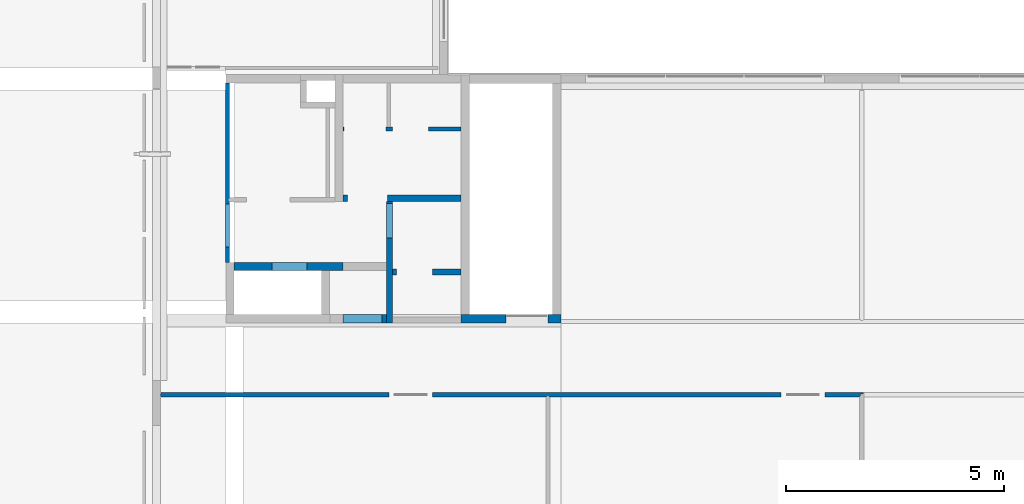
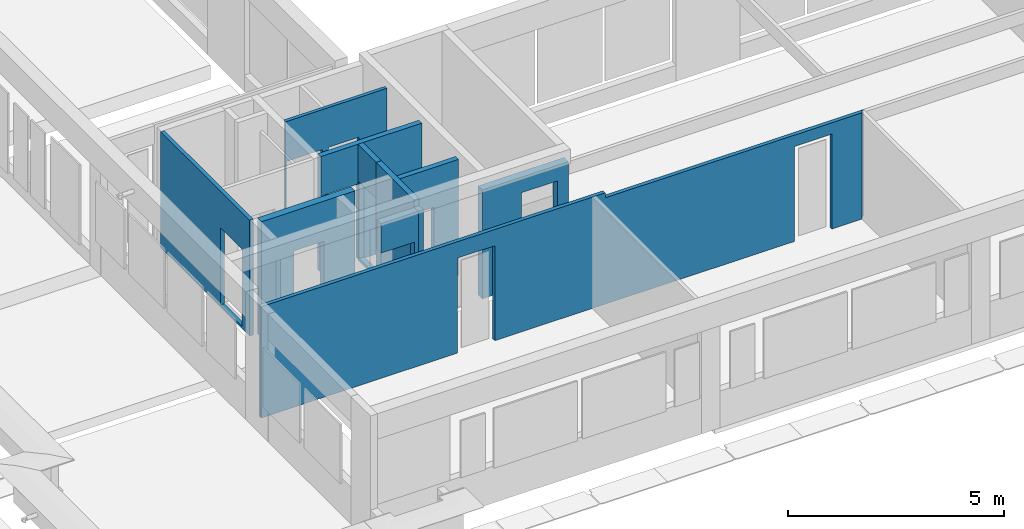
# One storey, part 20 of 38: 10 walls.
"""IFC4X3_ADD2 building model written with IfcOpenShell, lengths in millimetres."""

from ifc_helpers import new_model, si_unit, direction, frame, origin_with_axes, place, context, subcontext, project, spatial, faceted_brep, polygons, source, transform, mapped, type_object, type_shapes, element, save


model = new_model("IFC4X3_ADD2")

# Units and contexts
model_context = context("Model", 3, precision=1e-05, world=origin_with_axes(), true_north=direction((0.0, 1.0)))
body_context = subcontext(model_context, "Body", "Model", "MODEL_VIEW")
ifc_project = project(units=[si_unit("LENGTHUNIT", "METRE", prefix="MILLI"), si_unit("AREAUNIT", "SQUARE_METRE"), si_unit("VOLUMEUNIT", "CUBIC_METRE"), si_unit("PLANEANGLEUNIT", "RADIAN"), si_unit("TIMEUNIT", "SECOND"), si_unit("MASSUNIT", "GRAM")], contexts=[model_context])

# Site, building, storey
site_placement = place(None, origin_with_axes())
site = spatial("IfcSite", under=ifc_project, at=site_placement, Name="Site", CompositionType="ELEMENT")
building_placement = place(site_placement, origin_with_axes())
building = spatial("IfcBuilding", under=site, at=building_placement, Name="IFC Building Story")
storey_placement = place(building_placement, frame((0.0, 0.0, 10800.0), z_axis=(0.0, 0.0, 1.0), x_axis=(1.0, 0.0, 0.0)))
storey = spatial("IfcBuildingStorey", under=building, at=storey_placement, Name="030", Elevation=10800.0)

# Walls
wall_type_1 = type_object("IfcWallType", Name="Basic Wall_BB_10.01.41#02_Gipskartonwand_Vochtbestendig_MS100 _ 25.50.25_ 100 mm1", PredefinedType="NOTDEFINED")
shared_shape_1 = source(origin_with_axes(), body_context, "Body", "Brep", [
    faceted_brep([(0.0, 37.5000000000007, 0.0), (0.0, 37.5000000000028, 3270.0), (0.0, 50.0, 3270.0), (0.0, 50.0, 0.0), (4120.00406588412, 37.5000000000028, 3270.0), (4120.00406588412, 50.0, 3270.0), (4120.00406588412, 37.5000000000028, 0.0), (4120.00406588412, 50.0, 0.0), (350.0, 37.5000000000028, 2240.000000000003), (350.0, 37.5000000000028, 70.0), (350.0, 50.0, 70.0), (350.0, 50.0, 2240.000000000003), (1339.999999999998, 37.5000000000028, 70.0), (1339.999999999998, 50.0, 70.0), (1339.999999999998, 37.5000000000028, 2240.000000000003), (1339.999999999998, 50.0, 2240.000000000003)], [[[0, 1, 2, 3]], [[1, 4, 5, 2]], [[4, 6, 7, 5]], [[6, 0, 3, 7]], [[8, 9, 10, 11]], [[9, 12, 13, 10]], [[12, 14, 15, 13]], [[14, 8, 11, 15]], [[9, 8, 14, 12], [1, 0, 6, 4]], [[15, 11, 10, 13], [7, 3, 2, 5]]], outer=[[True], [True], [True], [True], [True], [True], [True], [True], [False, True], [False, True]]),
    faceted_brep([(0.0, 24.9999999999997, 0.0), (0.0, 25.0000000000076, 3270.0), (0.0, 37.5000000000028, 3270.0), (0.0, 37.5000000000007, 0.0), (4120.00406588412, 25.0000000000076, 3270.0), (4120.00406588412, 37.5000000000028, 3270.0), (4120.00406588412, 25.0000000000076, 0.0), (4120.00406588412, 37.5000000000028, 0.0), (350.0, 25.0000000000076, 2240.000000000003), (350.0, 25.0000000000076, 70.0), (350.0, 37.5000000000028, 70.0), (350.0, 37.5000000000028, 2240.000000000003), (1339.999999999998, 25.0000000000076, 70.0), (1339.999999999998, 37.5000000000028, 70.0), (1339.999999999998, 25.0000000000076, 2240.000000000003), (1339.999999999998, 37.5000000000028, 2240.000000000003)], [[[0, 1, 2, 3]], [[1, 4, 5, 2]], [[4, 6, 7, 5]], [[6, 0, 3, 7]], [[8, 9, 10, 11]], [[9, 12, 13, 10]], [[12, 14, 15, 13]], [[14, 8, 11, 15]], [[9, 8, 14, 12], [1, 0, 6, 4]], [[15, 11, 10, 13], [7, 3, 2, 5]]], outer=[[True], [True], [True], [True], [True], [True], [True], [True], [False, True], [False, True]]),
    faceted_brep([(0.0, -24.9999999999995, 0.0), (0.0, -25.000000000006, 3270.0), (0.0, 25.0000000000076, 3270.0), (0.0, 24.9999999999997, 0.0), (4120.00406588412, -25.000000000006, 3270.0), (4120.00406588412, 25.0000000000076, 3270.0), (4120.00406588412, -25.000000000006, 0.0), (4120.00406588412, 25.0000000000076, 0.0), (350.0, -25.000000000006, 2240.000000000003), (350.0, -25.000000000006, 70.0), (350.0, 25.0000000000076, 70.0), (350.0, 25.0000000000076, 2240.000000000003), (1339.999999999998, -25.000000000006, 70.0), (1339.999999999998, 25.0000000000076, 70.0), (1339.999999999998, -25.000000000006, 2240.000000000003), (1339.999999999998, 25.0000000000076, 2240.000000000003)], [[[0, 1, 2, 3]], [[1, 4, 5, 2]], [[4, 6, 7, 5]], [[6, 0, 3, 7]], [[8, 9, 10, 11]], [[9, 12, 13, 10]], [[12, 14, 15, 13]], [[14, 8, 11, 15]], [[9, 8, 14, 12], [1, 0, 6, 4]], [[15, 11, 10, 13], [7, 3, 2, 5]]], outer=[[True], [True], [True], [True], [True], [True], [True], [True], [False, True], [False, True]]),
    faceted_brep([(0.0, -37.5000000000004, 0.0), (0.0, -37.4999999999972, 3270.0), (0.0, -25.000000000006, 3270.0), (0.0, -24.9999999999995, 0.0), (4120.00406588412, -37.4999999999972, 3270.0), (4120.00406588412, -25.000000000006, 3270.0), (4120.00406588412, -37.4999999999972, 0.0), (4120.00406588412, -25.000000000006, 0.0), (350.0, -37.4999999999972, 2240.000000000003), (350.0, -37.4999999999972, 70.0), (350.0, -25.000000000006, 70.0), (350.0, -25.000000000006, 2240.000000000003), (1339.999999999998, -37.4999999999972, 70.0), (1339.999999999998, -25.000000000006, 70.0), (1339.999999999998, -37.4999999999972, 2240.000000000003), (1339.999999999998, -25.000000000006, 2240.000000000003)], [[[0, 1, 2, 3]], [[1, 4, 5, 2]], [[4, 6, 7, 5]], [[6, 0, 3, 7]], [[8, 9, 10, 11]], [[9, 12, 13, 10]], [[12, 14, 15, 13]], [[14, 8, 11, 15]], [[9, 8, 14, 12], [1, 0, 6, 4]], [[15, 11, 10, 13], [7, 3, 2, 5]]], outer=[[True], [True], [True], [True], [True], [True], [True], [True], [False, True], [False, True]]),
    faceted_brep([(0.0, -50.0, 0.0), (0.0, -50.0000000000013, 3270.0), (0.0, -37.4999999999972, 3270.0), (0.0, -37.5000000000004, 0.0), (4120.00406588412, -50.0000000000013, 3270.0), (4120.00406588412, -37.4999999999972, 3270.0), (4120.00406588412, -50.0000000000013, 0.0), (4120.00406588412, -37.4999999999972, 0.0), (350.0, -50.0000000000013, 2240.000000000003), (350.0, -50.0000000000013, 70.0), (350.0, -37.4999999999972, 70.0), (350.0, -37.4999999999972, 2240.000000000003), (1339.999999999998, -50.0000000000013, 70.0), (1339.999999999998, -37.4999999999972, 70.0), (1339.999999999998, -50.0000000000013, 2240.000000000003), (1339.999999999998, -37.4999999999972, 2240.000000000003)], [[[0, 1, 2, 3]], [[1, 4, 5, 2]], [[4, 6, 7, 5]], [[6, 0, 3, 7]], [[8, 9, 10, 11]], [[9, 12, 13, 10]], [[12, 14, 15, 13]], [[14, 8, 11, 15]], [[9, 8, 14, 12], [1, 0, 6, 4]], [[15, 11, 10, 13], [7, 3, 2, 5]]], outer=[[True], [True], [True], [True], [True], [True], [True], [True], [False, True], [False, True]]),
])
type_shapes(wall_type_1, [shared_shape_1])
wall_1_placement = place(storey_placement, frame((-43655.0, 8390.0, -80.0), z_axis=(0.0, 0.0, 1.0), x_axis=(0.0, 1.0, 0.0)))
element("IfcWall", 1, at=wall_1_placement, inside=storey, type_object=wall_type_1, Name="Basic Wall:BB_10.01.41#02_Gipskartonwand_Vochtbestendig_MS100 / 25.50.25, 100 mm", ObjectType="Basic Wall:BB_10.01.41#02_Gipskartonwand_Vochtbestendig_MS100 / 25.50.25, 100 mm", PredefinedType="PARTITIONING", context=body_context, shape_type="MappedRepresentation", body=[
    mapped(shared_shape_1, transform((0.0, 0.0, 0.0))),
])
wall_type_2 = type_object("IfcWallType", Name="Basic Wall_BB_10.01.41#03_Gipskartonwand_43dB_MS100 _ 25.50.25_ 100 mm79", PredefinedType="NOTDEFINED")
shared_shape_2 = source(origin_with_axes(), body_context, "Body", "Tessellation", [
    polygons([(9164.99999999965, 37.5000000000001, 3000.0), (16102.4999999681, 37.5000000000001, 3000.0), (16102.4999999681, 49.9999999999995, 3000.0), (9164.99999999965, 49.9999999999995, 3000.0), (15215.0000000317, 37.5000000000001, 0.0), (15215.0000000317, 50.0, 0.0), (16102.4999999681, 49.9999999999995, 0.0), (16102.4999999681, 37.5000000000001, 0.0), (15215.0000000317, 37.5000000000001, 2680.0), (15215.0000000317, 50.0, 2680.0), (14215.0000000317, 49.9999999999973, 2680.0), (14215.0000000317, 37.5000000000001, 2680.0), (14215.0000000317, 37.5000000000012, 0.0), (14215.0000000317, 50.0, 0.0), (6215.0000000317, 37.5000000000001, 0.0), (6215.0000000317, 49.9999999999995, 0.0), (6215.0000000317, 37.5000000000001, 2680.0), (6215.0000000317, 49.9999999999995, 2680.0), (5215.0000000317, 49.9999999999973, 2680.0), (5215.0000000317, 37.5000000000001, 2680.0), (5215.0000000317, 37.5000000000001, 0.0), (5215.0000000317, 49.9999999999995, 0.0), (-14.9999999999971, 49.9999999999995, 0.0), (-14.9999999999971, 37.5000000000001, 0.0), (9164.99999999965, 37.5000000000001, 3140.0), (-14.9999999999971, 37.5000000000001, 3140.0), (-14.9999999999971, 37.5000000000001, 3000.0), (-14.9999999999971, 49.9999999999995, 3000.0), (-14.9999999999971, 49.9999999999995, 3140.0), (9164.99999999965, 49.9999999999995, 3140.0)], [[[1, 2, 3, 4]], [[5, 6, 7, 8]], [[9, 10, 6, 5]], [[11, 10, 9, 12]], [[11, 12, 13, 14]], [[15, 16, 14, 13]], [[17, 18, 16, 15]], [[19, 18, 17, 20]], [[21, 22, 19, 20]], [[23, 22, 21, 24]], [[9, 5, 8]], [[9, 8, 2]], [[2, 12, 9]], [[1, 25, 17]], [[12, 2, 1]], [[1, 17, 15]], [[1, 15, 13]], [[1, 13, 12]], [[25, 20, 17]], [[27, 24, 21]], [[27, 21, 20]], [[20, 25, 26]], [[20, 26, 27]], [[28, 29, 30]], [[28, 30, 4]], [[11, 14, 16]], [[11, 16, 4]], [[4, 3, 11]], [[3, 10, 11]], [[3, 7, 6]], [[3, 6, 10]], [[19, 22, 23]], [[19, 23, 28]], [[28, 4, 19]], [[4, 18, 19]], [[4, 16, 18]], [[28, 23, 24]], [[28, 24, 27]], [[27, 26, 29]], [[27, 29, 28]], [[7, 3, 2, 8]], [[30, 29, 26, 25]], [[4, 30, 25, 1]]]),
    polygons([(16089.9999999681, 37.5000000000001, 3000.0), (9164.99999999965, 37.5000000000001, 3000.0), (9164.99999999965, 24.9999999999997, 3000.0), (16089.9999999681, 24.9999999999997, 3000.0), (15215.0000000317, 24.9999999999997, 0.0), (15215.0000000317, 37.5000000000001, 0.0), (16089.9999999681, 37.5000000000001, 0.0), (16089.9999999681, 24.9999999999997, 0.0), (15215.0000000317, 24.9999999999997, 2680.0), (15215.0000000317, 37.5000000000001, 2680.0), (14215.0000000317, 25.0, 2680.0), (14215.0000000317, 37.5000000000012, 2680.0), (14215.0000000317, 25.0, 0.0), (14215.0000000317, 37.5000000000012, 0.0), (6215.0000000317, 24.9999999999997, 0.0), (6215.0000000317, 37.5000000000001, 0.0), (6215.0000000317, 24.9999999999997, 2680.0), (6215.0000000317, 37.5000000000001, 2680.0), (5215.0000000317, 24.9999999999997, 2680.0), (5215.0000000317, 37.5000000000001, 2680.0), (5215.0000000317, 24.9999999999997, 0.0), (5215.0000000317, 37.5000000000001, 0.0), (-14.9999999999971, 37.5000000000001, 0.0), (-14.999999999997, 24.9999999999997, 0.0), (-14.9999999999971, 37.5000000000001, 3000.0), (-14.9999999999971, 37.5000000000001, 3140.0), (9164.99999999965, 37.5000000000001, 3140.0), (9164.99999999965, 24.9999999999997, 3140.0), (-14.999999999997, 24.9999999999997, 3140.0), (-14.999999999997, 24.9999999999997, 3000.0)], [[[1, 2, 3, 4]], [[5, 6, 7, 8]], [[9, 10, 6, 5]], [[10, 9, 11, 12]], [[12, 11, 13, 14]], [[15, 16, 14, 13]], [[17, 18, 16, 15]], [[18, 17, 19, 20]], [[21, 22, 20, 19]], [[23, 22, 21, 24]], [[25, 26, 27]], [[25, 27, 2]], [[12, 14, 16]], [[12, 16, 2]], [[2, 1, 12]], [[1, 10, 12]], [[1, 7, 6]], [[1, 6, 10]], [[20, 22, 23]], [[20, 23, 25]], [[25, 2, 20]], [[2, 18, 20]], [[2, 16, 18]], [[9, 5, 8]], [[9, 8, 4]], [[4, 11, 9]], [[3, 28, 17]], [[11, 4, 3]], [[3, 17, 15]], [[3, 15, 13]], [[3, 13, 11]], [[28, 19, 17]], [[30, 24, 21]], [[30, 21, 19]], [[19, 28, 29]], [[19, 29, 30]], [[25, 23, 24]], [[25, 24, 30]], [[30, 29, 26]], [[30, 26, 25]], [[4, 8, 7, 1]], [[27, 26, 29, 28]], [[2, 27, 28, 3]]]),
    polygons([(16039.9999999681, 24.9999999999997, 3000.0), (9164.99999999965, 24.9999999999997, 3000.0), (9164.99999999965, -24.9999999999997, 3000.0), (16039.9999999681, -24.9999999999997, 3000.0), (15215.0000000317, -24.9999999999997, 0.0), (15215.0000000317, 24.9999999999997, 0.0), (16039.9999999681, 24.9999999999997, 0.0), (16039.9999999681, -24.9999999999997, 0.0), (15215.0000000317, -24.9999999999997, 2680.0), (15215.0000000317, 24.9999999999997, 2680.0), (14215.0000000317, -24.9999999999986, 2680.0), (14215.0000000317, 25.0, 2680.0), (14215.0000000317, -24.9999999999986, 0.0), (14215.0000000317, 25.0, 0.0), (6215.0000000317, -24.9999999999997, 0.0), (6215.0000000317, 24.9999999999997, 0.0), (6215.0000000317, -24.9999999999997, 2680.0), (6215.0000000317, 24.9999999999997, 2680.0), (5215.0000000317, -24.9999999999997, 2680.0), (5215.0000000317, 24.9999999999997, 2680.0), (5215.0000000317, -24.9999999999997, 0.0), (5215.0000000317, 24.9999999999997, 0.0), (-25.0000000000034, 24.9999999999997, 0.0), (-25.0000000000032, -24.9999999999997, 0.0), (-25.0000000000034, 24.9999999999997, 3000.0), (-25.0000000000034, 24.9999999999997, 3140.0), (9164.99999999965, 24.9999999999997, 3140.0), (9164.99999999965, -24.9999999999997, 3140.0), (-25.0000000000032, -24.9999999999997, 3140.0), (-25.0000000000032, -24.9999999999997, 3000.0)], [[[1, 2, 3, 4]], [[5, 6, 7, 8]], [[9, 10, 6, 5]], [[10, 9, 11, 12]], [[12, 11, 13, 14]], [[15, 16, 14, 13]], [[17, 18, 16, 15]], [[18, 17, 19, 20]], [[21, 22, 20, 19]], [[23, 22, 21, 24]], [[25, 26, 27]], [[25, 27, 2]], [[12, 14, 16]], [[12, 16, 2]], [[2, 1, 12]], [[1, 10, 12]], [[1, 7, 6]], [[1, 6, 10]], [[20, 22, 23]], [[20, 23, 25]], [[25, 2, 20]], [[2, 18, 20]], [[2, 16, 18]], [[9, 5, 8]], [[9, 8, 4]], [[4, 11, 9]], [[3, 28, 17]], [[11, 4, 3]], [[3, 17, 15]], [[3, 15, 13]], [[3, 13, 11]], [[28, 19, 17]], [[30, 24, 21]], [[30, 21, 19]], [[19, 28, 29]], [[19, 29, 30]], [[25, 23, 24]], [[25, 24, 30]], [[30, 29, 26]], [[30, 26, 25]], [[4, 8, 7, 1]], [[27, 26, 29, 28]], [[2, 27, 28, 3]]]),
    polygons([(16027.4999999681, -24.9999999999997, 3000.0), (9164.99999999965, -24.9999999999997, 3000.0), (9164.99999999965, -37.5000000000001, 3000.0), (16027.4999999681, -37.5000000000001, 3000.0), (15215.0000000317, -37.5000000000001, 0.0), (15215.0000000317, -24.9999999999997, 0.0), (16027.4999999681, -24.9999999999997, 0.0), (16027.4999999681, -37.5000000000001, 0.0), (15215.0000000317, -37.5000000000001, 2680.0), (15215.0000000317, -24.9999999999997, 2680.0), (14215.0000000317, -37.4999999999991, 2680.0), (14215.0000000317, -24.9999999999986, 2680.0), (14215.0000000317, -37.4999999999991, 0.0), (14215.0000000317, -24.9999999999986, 0.0), (6215.0000000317, -37.5000000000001, 0.0), (6215.0000000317, -24.9999999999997, 0.0), (6215.0000000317, -37.5000000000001, 2680.0), (6215.0000000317, -24.9999999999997, 2680.0), (5215.0000000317, -37.5000000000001, 2680.0), (5215.0000000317, -24.9999999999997, 2680.0), (5215.0000000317, -37.5000000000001, 0.0), (5215.0000000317, -24.9999999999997, 0.0), (-14.9999999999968, -24.9999999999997, 0.0), (-14.9999999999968, -37.5000000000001, 0.0), (-14.9999999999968, -24.9999999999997, 3000.0), (-14.9999999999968, -24.9999999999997, 3140.0), (9164.99999999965, -24.9999999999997, 3140.0), (9164.99999999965, -37.5000000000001, 3140.0), (-14.9999999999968, -37.5000000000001, 3140.0), (-14.9999999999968, -37.5000000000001, 3000.0)], [[[1, 2, 3, 4]], [[5, 6, 7, 8]], [[9, 10, 6, 5]], [[10, 9, 11, 12]], [[12, 11, 13, 14]], [[15, 16, 14, 13]], [[17, 18, 16, 15]], [[18, 17, 19, 20]], [[21, 22, 20, 19]], [[23, 22, 21, 24]], [[25, 26, 27]], [[25, 27, 2]], [[12, 14, 16]], [[12, 16, 2]], [[2, 1, 12]], [[1, 10, 12]], [[1, 7, 6]], [[1, 6, 10]], [[20, 22, 23]], [[20, 23, 25]], [[25, 2, 20]], [[2, 18, 20]], [[2, 16, 18]], [[9, 5, 8]], [[9, 8, 4]], [[4, 11, 9]], [[3, 28, 17]], [[11, 4, 3]], [[3, 17, 15]], [[3, 15, 13]], [[3, 13, 11]], [[28, 19, 17]], [[30, 24, 21]], [[30, 21, 19]], [[19, 28, 29]], [[19, 29, 30]], [[25, 23, 24]], [[25, 24, 30]], [[30, 29, 26]], [[30, 26, 25]], [[4, 8, 7, 1]], [[27, 26, 29, 28]], [[2, 27, 28, 3]]]),
    polygons([(16014.9999999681, -37.5000000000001, 3000.0), (9164.99999999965, -37.5000000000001, 3000.0), (9164.99999999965, -50.0, 3000.0), (16014.9999999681, -50.0, 3000.0), (16014.9999999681, -37.5000000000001, 0.0), (15215.0000000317, -37.5000000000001, 0.0), (15215.0000000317, -37.5000000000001, 2680.0), (14215.0000000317, -37.4999999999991, 2680.0), (14215.0000000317, -37.4999999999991, 0.0), (6215.0000000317, -37.5000000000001, 0.0), (6215.0000000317, -37.5000000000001, 2680.0), (5215.0000000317, -37.5000000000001, 2680.0), (5215.0000000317, -37.5000000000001, 0.0), (-14.9999999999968, -37.5000000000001, 0.0), (-14.9999999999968, -37.5000000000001, 3000.0), (-14.9999999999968, -37.5000000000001, 3140.0), (9164.99999999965, -37.5000000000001, 3140.0), (16014.9999999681, -50.0, 0.0), (15215.0000000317, -49.9999999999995, 0.0), (15215.0000000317, -49.9999999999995, 2680.0), (14215.0000000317, -50.0000000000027, 2680.0), (14215.0000000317, -49.9999999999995, 0.0), (8914.99999996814, -50.0, 0.0), (8814.99999996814, -50.0, 0.0), (6215.0000000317, -50.0, 0.0), (6215.0000000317, -50.0, 2680.0), (5215.0000000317, -50.0000000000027, 2680.0), (5215.0000000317, -50.0, 0.0), (-14.9999999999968, -50.0, 0.0), (9164.99999999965, -50.0, 3140.0), (8914.99999996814, -50.0, 3140.0), (8814.99999996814, -50.0, 3140.0), (-14.9999999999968, -50.0, 3140.0), (-14.9999999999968, -50.0, 3000.0)], [[[1, 2, 3, 4]], [[15, 16, 12]], [[12, 13, 14]], [[12, 14, 15]], [[16, 17, 12]], [[17, 11, 12]], [[2, 8, 9]], [[2, 9, 10]], [[2, 10, 11]], [[11, 17, 2]], [[2, 1, 8]], [[1, 7, 8]], [[1, 5, 6]], [[1, 6, 7]], [[5, 1, 4, 18]], [[6, 5, 18, 19]], [[7, 6, 19, 20]], [[8, 7, 20, 21]], [[9, 8, 21, 22]], [[24, 25, 10]], [[10, 23, 24]], [[23, 10, 9]], [[9, 22, 23]], [[11, 10, 25, 26]], [[12, 11, 26, 27]], [[13, 12, 27, 28]], [[14, 13, 28, 29]], [[20, 19, 18]], [[20, 18, 4]], [[4, 21, 20]], [[3, 30, 31]], [[21, 4, 3]], [[3, 31, 23]], [[23, 22, 21]], [[23, 21, 3]], [[31, 32, 24]], [[31, 24, 23]], [[32, 26, 25]], [[32, 25, 24]], [[32, 27, 26]], [[34, 29, 28]], [[34, 28, 27]], [[27, 32, 33]], [[27, 33, 34]], [[34, 33, 16]], [[34, 16, 15]], [[15, 14, 29]], [[15, 29, 34]], [[31, 30, 17]], [[17, 32, 31]], [[32, 17, 16]], [[16, 33, 32]], [[2, 17, 30, 3]]]),
])
type_shapes(wall_type_2, [shared_shape_2])
wall_2_placement = place(storey_placement, frame((-45165.0, 5350.0, 0.0), z_axis=(0.0, 0.0, 1.0), x_axis=(1.0, 0.0, 0.0)))
element("IfcWall", 2, at=wall_2_placement, inside=storey, type_object=wall_type_2, Name="Basic Wall:BB_10.01.41#03_Gipskartonwand_43dB_MS100 / 25.50.25, 100 mm", ObjectType="Basic Wall:BB_10.01.41#03_Gipskartonwand_43dB_MS100 / 25.50.25, 100 mm", PredefinedType="PARTITIONING", context=body_context, shape_type="MappedRepresentation", body=[
    mapped(shared_shape_2, transform((0.0, 0.0, 0.0))),
])
wall_3_placement = place(storey_placement, frame((0.0, 0.0, -10800.0), z_axis=(0.0, 0.0, 1.0), x_axis=(1.0, 0.0, 0.0)))
element("IfcWall", 3, at=wall_3_placement, inside=storey, Name="Basic Wall:BB_XX_Wand uit beton, 200 mm", ObjectType="Basic Wall:BB_XX_Wand uit beton, 200 mm", PredefinedType="SOLIDWALL", context=body_context, shape_type="Tessellation", body=[
    polygons([(-36000.0, 7200.0, 10720.0), (-36200.00000000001, 7200.0, 10720.0), (-36300.0, 7200.000000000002, 10720.0), (-36300.0, 7200.000000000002, 13350.0), (-37260.0, 7200.000000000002, 13350.0), (-37260.0, 7200.000000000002, 10720.0), (-38100.00000000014, 7200.0, 10720.0), (-38300.00000000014, 7200.0, 10720.0), (-38300.00000000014, 7200.0, 13790.0), (-36000.0, 7200.0, 13790.0), (-36300.0, 7000.000000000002, 10720.0), (-36000.0, 7000.000000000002, 10720.0), (-36000.0, 7000.000000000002, 13790.0), (-38300.00000000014, 7000.000000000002, 13790.0), (-38300.00000000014, 7000.000000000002, 10720.0), (-37260.0, 7000.0, 10720.0), (-37260.0, 7000.0, 13350.0), (-36300.0, 7000.000000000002, 13350.0)], [[[7, 8, 9]], [[7, 9, 5]], [[5, 6, 7]], [[9, 10, 4]], [[9, 4, 5]], [[10, 2, 3]], [[10, 3, 4]], [[10, 1, 2]], [[18, 11, 12]], [[18, 12, 13]], [[13, 14, 17]], [[13, 17, 18]], [[14, 15, 16]], [[14, 16, 17]], [[10, 9, 14, 13]], [[8, 15, 14, 9]], [[2, 1, 12]], [[2, 12, 11]], [[11, 3, 2]], [[4, 3, 11, 18]], [[5, 4, 18, 17]], [[6, 5, 17, 16]], [[7, 6, 16]], [[7, 16, 15]], [[15, 8, 7]], [[12, 1, 10, 13]]]),
])
wall_4_placement = place(storey_placement, frame((0.0, 0.0, -10800.0), z_axis=(0.0, 0.0, 1.0), x_axis=(1.0, 0.0, 0.0)))
element("IfcWall", 4, at=wall_4_placement, inside=storey, Name="Basic Wall:BB_XX_Wand uit metselwerk, 190 mm", ObjectType="Basic Wall:BB_XX_Wand uit metselwerk, 190 mm", PredefinedType="SOLIDWALL", context=body_context, shape_type="Tessellation", body=[
    polygons([(-43500.0, 8200.0, 10720.0), (-41000.0, 8199.999999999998, 10720.0), (-41000.0, 8199.999999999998, 13990.0), (-43500.0, 8200.0, 13990.0), (-41826.99999999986, 8200.000000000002, 12860.0), (-41826.99999999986, 8200.000000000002, 10800.0), (-42632.99999999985, 8200.000000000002, 10800.0), (-42632.99999999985, 8200.000000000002, 12860.0), (-41000.0, 8389.999999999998, 10720.0), (-41190.0, 8390.000000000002, 10720.0), (-43500.0, 8390.0, 10720.0), (-43500.0, 8390.0, 13990.0), (-41190.0, 8390.000000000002, 13990.0), (-41000.0, 8389.999999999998, 13990.0), (-41826.99999999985, 8390.000000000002, 10800.0), (-41826.99999999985, 8390.000000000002, 12860.0), (-42632.99999999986, 8390.000000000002, 12860.0), (-42632.99999999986, 8390.000000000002, 10800.0)], [[[8, 5, 3]], [[8, 3, 4]], [[4, 1, 7]], [[4, 7, 8]], [[1, 6, 7]], [[1, 2, 6]], [[2, 3, 5]], [[2, 5, 6]], [[13, 14, 9]], [[13, 9, 10]], [[13, 10, 15]], [[13, 15, 16]], [[18, 15, 10]], [[10, 11, 18]], [[11, 12, 17]], [[11, 17, 18]], [[12, 13, 16]], [[12, 16, 17]], [[10, 9, 2]], [[2, 1, 11]], [[2, 11, 10]], [[3, 2, 9, 14]], [[13, 12, 4]], [[13, 4, 3]], [[3, 14, 13]], [[1, 4, 12, 11]], [[5, 16, 15, 6]], [[6, 15, 18, 7]], [[7, 18, 17, 8]], [[16, 5, 8, 17]]]),
])
wall_5_placement = place(storey_placement, frame((0.0, 0.0, -10800.0), z_axis=(0.0, 0.0, 1.0), x_axis=(1.0, 0.0, 0.0)))
element("IfcWall", 5, at=wall_5_placement, inside=storey, Name="Basic Wall:BB_XX_Wand uit metselwerk, 90 mm", ObjectType="Basic Wall:BB_XX_Wand uit metselwerk, 90 mm", PredefinedType="SOLIDWALL", context=body_context, shape_type="Tessellation", body=[
    polygons([(-40999.99999999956, 11500.004065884, 10720.0), (-40999.99999999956, 11500.004065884, 13990.0), (-38300.0, 11500.004065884, 13990.0), (-38300.0, 11500.004065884, 10720.0), (-39044.99999999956, 11500.004065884, 10720.0), (-39044.99999999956, 11500.004065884, 12870.0), (-39864.99999999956, 11500.004065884, 12870.0), (-39864.99999999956, 11500.004065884, 10720.0), (-40022.99999999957, 11500.004065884, 10720.0), (-40022.99999999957, 11500.004065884, 12860.0), (-40984.99999999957, 11500.004065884, 12860.0), (-40984.99999999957, 11500.004065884, 10720.0), (-40999.99999999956, 11410.004065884, 13990.0), (-40999.99999999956, 11410.004065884, 10720.0), (-40984.99999999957, 11410.004065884, 10720.0), (-40984.99999999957, 11410.004065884, 12860.0), (-40022.99999999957, 11410.004065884, 12860.0), (-40022.99999999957, 11410.004065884, 10720.0), (-39864.99999999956, 11410.004065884, 10720.0), (-39864.99999999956, 11410.004065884, 12870.0), (-39044.99999999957, 11410.004065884, 12870.0), (-39044.99999999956, 11410.004065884, 10720.0), (-38300.0, 11410.004065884, 10720.0), (-38300.0, 11410.004065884, 13990.0)], [[[11, 12, 1]], [[1, 2, 11]], [[2, 10, 11]], [[2, 7, 10]], [[7, 8, 9]], [[7, 9, 10]], [[2, 3, 6]], [[2, 6, 7]], [[3, 4, 5]], [[3, 5, 6]], [[21, 22, 23]], [[21, 23, 24]], [[24, 20, 21]], [[24, 17, 20]], [[17, 18, 19]], [[17, 19, 20]], [[24, 13, 17]], [[13, 16, 17]], [[16, 13, 14]], [[14, 15, 16]], [[4, 23, 22, 5]], [[2, 1, 14, 13]], [[3, 2, 13, 24]], [[4, 3, 24, 23]], [[17, 10, 9, 18]], [[11, 16, 15, 12]], [[10, 17, 16, 11]], [[7, 20, 19, 8]], [[21, 6, 5, 22]], [[20, 7, 6, 21]], [[18, 9, 8, 19]], [[14, 1, 12, 15]]]),
])
wall_6_placement = place(storey_placement, frame((0.0, 0.0, -10800.0), z_axis=(0.0, 0.0, 1.0), x_axis=(1.0, 0.0, 0.0)))
element("IfcWall", 6, at=wall_6_placement, inside=storey, Name="Basic Wall:BB_XX_Wand uit metselwerk, 140 mm", ObjectType="Basic Wall:BB_XX_Wand uit metselwerk, 140 mm", PredefinedType="SOLIDWALL", context=body_context, shape_type="Tessellation", body=[
    polygons([(-40999.99999999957, 9931.044065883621, 10720.0), (-40999.99999999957, 9931.044065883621, 13990.0), (-38300.0, 9931.044065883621, 13990.0), (-38300.0, 9931.044065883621, 10720.0), (-39984.99999999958, 9931.044065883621, 10720.0), (-39984.99999999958, 9931.044065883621, 12870.0), (-40904.99999999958, 9931.044065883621, 12870.0), (-40904.99999999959, 9931.044065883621, 10720.0), (-40999.99999999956, 9791.04406588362, 13990.0), (-40999.99999999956, 9791.04406588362, 10720.0), (-40904.99999999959, 9791.04406588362, 10720.0), (-40904.99999999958, 9791.04406588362, 12870.0), (-39984.99999999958, 9791.04406588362, 12870.0), (-39984.99999999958, 9791.04406588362, 10720.0), (-38300.0, 9791.04406588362, 10720.0), (-38300.0, 9791.04406588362, 13990.0)], [[[7, 8, 1]], [[1, 2, 7]], [[2, 6, 7]], [[6, 2, 3]], [[3, 4, 5]], [[3, 5, 6]], [[13, 14, 15]], [[13, 15, 16]], [[16, 9, 13]], [[9, 12, 13]], [[12, 9, 10]], [[10, 11, 12]], [[4, 15, 14, 5]], [[2, 1, 10, 9]], [[3, 2, 9, 16]], [[4, 3, 16, 15]], [[13, 6, 5, 14]], [[7, 12, 11, 8]], [[6, 13, 12, 7]], [[10, 1, 8, 11]]]),
])
wall_7_placement = place(storey_placement, frame((0.0, 0.0, -10800.0), z_axis=(0.0, 0.0, 1.0), x_axis=(1.0, 0.0, 0.0)))
element("IfcWall", 7, at=wall_7_placement, inside=storey, Name="Basic Wall:BB_XX_Wand uit metselwerk, 140 mm", ObjectType="Basic Wall:BB_XX_Wand uit metselwerk, 140 mm", PredefinedType="SOLIDWALL", context=body_context, shape_type="Tessellation", body=[
    polygons([(-39869.99999999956, 8241.04422853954, 10720.0), (-39869.99999999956, 8241.04422853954, 13990.0), (-38299.99999999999, 8241.04422853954, 13990.0), (-38299.99999999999, 8241.04422853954, 10720.0), (-38954.99999999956, 8241.04422853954, 10720.0), (-38954.99999999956, 8241.04422853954, 12870.0), (-39774.99999999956, 8241.04422853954, 12870.0), (-39774.99999999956, 8241.04422853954, 10720.0), (-39869.99999999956, 8101.04422853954, 13990.0), (-39869.99999999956, 8101.04422853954, 10720.0), (-39774.99999999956, 8101.04422853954, 10720.0), (-39774.99999999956, 8101.04422853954, 12870.0), (-38954.99999999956, 8101.04422853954, 12870.0), (-38954.99999999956, 8101.04422853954, 10720.0), (-38299.99999999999, 8101.044228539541, 10720.0), (-38299.99999999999, 8101.044228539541, 13990.0)], [[[7, 8, 1]], [[1, 2, 7]], [[2, 3, 6]], [[2, 6, 7]], [[3, 4, 5]], [[3, 5, 6]], [[13, 14, 15]], [[13, 15, 16]], [[16, 9, 12]], [[16, 12, 13]], [[12, 9, 10]], [[10, 11, 12]], [[4, 15, 14, 5]], [[2, 1, 10, 9]], [[3, 2, 9, 16]], [[4, 3, 16, 15]], [[13, 6, 5, 14]], [[7, 12, 11, 8]], [[6, 13, 12, 7]], [[10, 1, 8, 11]]]),
])
wall_8_placement = place(storey_placement, frame((0.0, 0.0, -10800.0), z_axis=(0.0, 0.0, 1.0), x_axis=(1.0, 0.0, 0.0)))
element("IfcWall", 8, at=wall_8_placement, inside=storey, Name="Basic Wall:BB_XX_Wand uit metselwerk, 140 mm", ObjectType="Basic Wall:BB_XX_Wand uit metselwerk, 140 mm", PredefinedType="SOLIDWALL", context=body_context, shape_type="Tessellation", body=[
    polygons([(-39870.0, 7000.0, 10720.0), (-39870.0, 7140.0, 10720.0), (-39870.0, 8951.04422853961, 10720.0), (-39870.0, 8951.04422853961, 13990.0), (-39870.0, 7200.000162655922, 13990.0), (-39870.0, 7200.000162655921, 13790.0), (-39870.0, 7140.0, 13790.0), (-39870.0, 7000.0, 13790.0), (-40010.0, 8951.04422853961, 10720.0), (-40010.0, 7000.0, 10720.0), (-40010.0, 7000.0, 13790.0), (-40010.0, 7200.000162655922, 13790.0), (-40010.0, 7200.000162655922, 13990.0), (-40010.0, 8951.04422853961, 13990.0)], [[[6, 7, 2]], [[6, 2, 3]], [[6, 3, 4]], [[4, 5, 6]], [[7, 8, 1]], [[7, 1, 2]], [[12, 13, 14]], [[12, 14, 9]], [[12, 9, 10]], [[10, 11, 12]], [[2, 1, 10]], [[10, 9, 3]], [[10, 3, 2]], [[4, 3, 9, 14]], [[4, 14, 13, 5]], [[10, 1, 8, 11]], [[7, 6, 12]], [[12, 11, 8]], [[12, 8, 7]], [[12, 6, 5, 13]]]),
])
wall_9_placement = place(storey_placement, frame((0.0, 0.0, -10800.0), z_axis=(0.0, 0.0, 1.0), x_axis=(1.0, 0.0, 0.0)))
element("IfcWall", 9, at=wall_9_placement, inside=storey, Name="Basic Wall:BB_03.09.24#03_Wand uit metselwerk, 190 mm", ObjectType="Basic Wall:BB_03.09.24#03_Wand uit metselwerk, 190 mm", PredefinedType="SOLIDWALL", context=body_context, shape_type="Tessellation", body=[
    polygons([(-41000.0, 7000.0, 10720.0), (-40010.0, 7000.0, 10720.0), (-40010.0, 7000.0, 13790.0), (-41000.0, 7000.0, 13790.0), (-41000.0, 7000.0, 12960.0), (-40110.0, 6999.999999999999, 12960.0), (-40110.0, 6999.999999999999, 10795.0), (-41000.0, 7000.0, 10795.0), (-40010.0, 7190.0, 10720.0), (-41000.0, 7190.0, 10720.0), (-41000.0, 7190.0, 10795.0), (-40110.0, 7189.999999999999, 10795.0), (-40110.0, 7189.999999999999, 12960.0), (-41000.0, 7190.0, 12960.0), (-41000.0, 7190.0, 13790.0), (-40010.0, 7190.0, 13790.0)], [[[7, 8, 1]], [[7, 1, 2]], [[2, 3, 6]], [[2, 6, 7]], [[3, 4, 5]], [[3, 5, 6]], [[13, 14, 15]], [[13, 15, 16]], [[16, 9, 12]], [[16, 12, 13]], [[9, 10, 11]], [[9, 11, 12]], [[2, 1, 10, 9]], [[3, 2, 9, 16]], [[4, 3, 16, 15]], [[10, 1, 8, 11]], [[13, 6, 5, 14]], [[7, 12, 11, 8]], [[6, 13, 12, 7]], [[4, 15, 14, 5]]]),
])
wall_10_placement = place(storey_placement, frame((0.0, 0.0, -10800.0), z_axis=(0.0, 0.0, 1.0), x_axis=(1.0, 0.0, 0.0)))
element("IfcWall", 10, at=wall_10_placement, inside=storey, Name="Basic Wall:BB_03.09.24#01_Wand uit metselwerk, 140 mm", ObjectType="Basic Wall:BB_03.09.24#01_Wand uit metselwerk, 140 mm", PredefinedType="SOLIDWALL", context=body_context, shape_type="Tessellation", body=[
    polygons([(-39870.0, 8951.044228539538, 10720.0), (-39870.0, 9791.044065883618, 10720.0), (-39870.0, 9791.044065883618, 13990.0), (-39870.0, 8951.044228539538, 13990.0), (-39870.0, 8951.044228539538, 12970.0), (-39870.0, 9741.044228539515, 12970.0), (-39870.0, 9741.044228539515, 10800.0), (-39870.0, 8951.044228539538, 10800.0), (-40010.0, 9791.044065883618, 10720.0), (-40010.0, 8951.044228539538, 10720.0), (-40010.0, 8951.044228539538, 10800.0), (-40010.0, 9741.044228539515, 10800.0), (-40010.0, 9741.044228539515, 12970.0), (-40010.0, 8951.044228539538, 12970.0), (-40010.0, 8951.044228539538, 13990.0), (-40010.0, 9791.044065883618, 13990.0)], [[[7, 8, 1]], [[7, 1, 2]], [[2, 6, 7]], [[2, 3, 6]], [[3, 4, 5]], [[3, 5, 6]], [[13, 14, 15]], [[13, 15, 16]], [[13, 16, 9]], [[9, 12, 13]], [[9, 10, 11]], [[9, 11, 12]], [[2, 1, 10, 9]], [[3, 2, 9, 16]], [[4, 3, 16, 15]], [[10, 1, 8, 11]], [[13, 6, 5, 14]], [[7, 12, 11, 8]], [[12, 7, 6, 13]], [[4, 15, 14, 5]]]),
])

save(model, "model.ifc")
